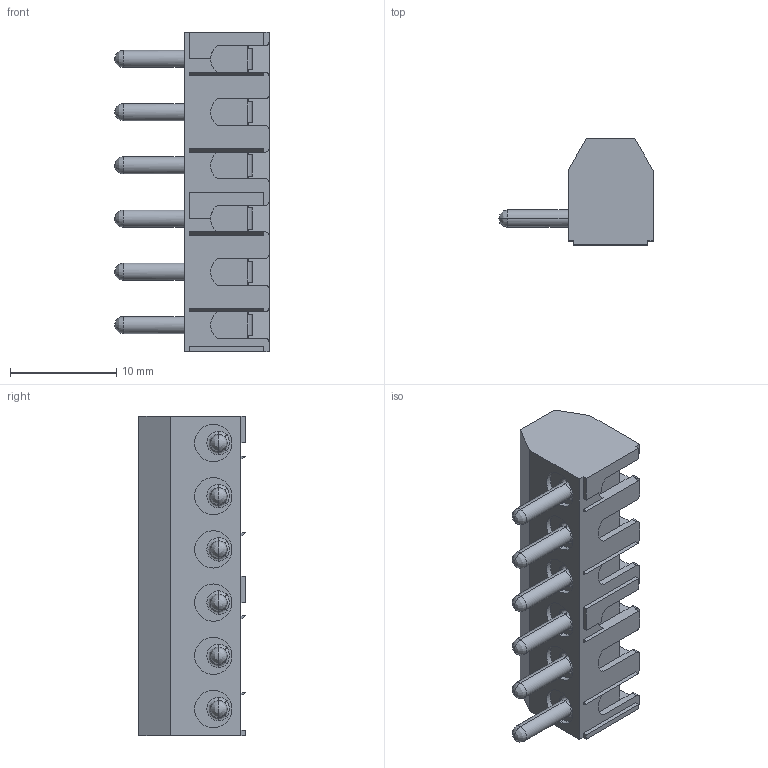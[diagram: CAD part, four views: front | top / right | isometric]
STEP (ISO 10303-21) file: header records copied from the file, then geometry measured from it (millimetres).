
FILE_DESCRIPTION (( 'STEP AP214' ), '1' );
FILE_NAME ('951-SV-DS-06.STEP', '2008-03-17T00:56:33', ( ' ' ), ( '' ), 'SwSTEP 2.0', 'SolidWorks 2007', '' );
FILE_SCHEMA (( 'AUTOMOTIVE_DESIGN' ));
Length unit declared in the file: millimetre
Products named in the file (1): 951-SV-DS-06
Bounding box: 14.5 x 10 x 30 mm (x, y, z)
Volume: 1853.7 mm3; surface area: 1938.2 mm2
Topology: 1 solids, 1 shells, 452 faces, 1416 edges, 924 vertices
Faces by surface type: plane 288, cylinder 104, bspline 48, cone 12
Entity records: 17641 total; most frequent: CARTESIAN_POINT 5353, ORIENTED_EDGE 2808, DIRECTION 2324, EDGE_CURVE 1404, VERTEX_POINT 924, VECTOR 854, LINE 854, AXIS2_PLACEMENT_3D 735
